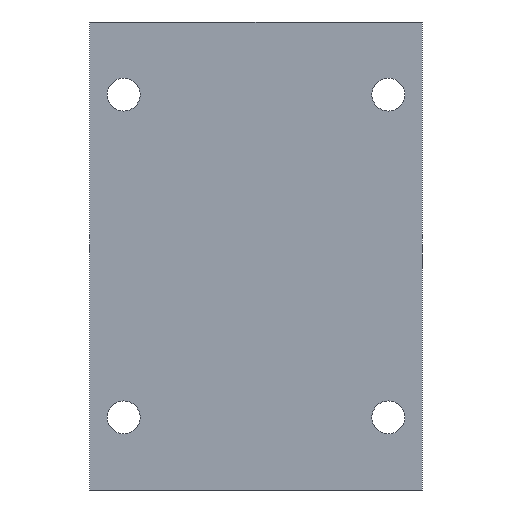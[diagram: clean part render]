
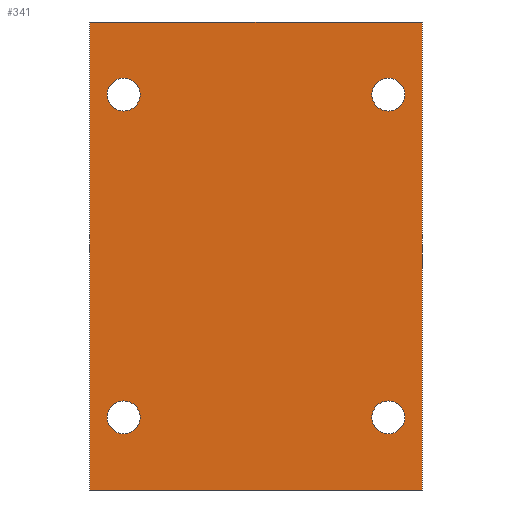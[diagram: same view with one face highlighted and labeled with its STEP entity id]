
A CAD part, front view. The second image highlights one B-rep face of the part: STEP entity #341.
In plain terms, the highlighted planar face has unit normal (0, -1, 0).
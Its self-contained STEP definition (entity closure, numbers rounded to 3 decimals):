
#1 = LINE ( 'NONE', #13, #239 ) ;
#13 = CARTESIAN_POINT ( 'NONE',  ( -51.5, -46., -72.5 ) ) ;
#27 = CIRCLE ( 'NONE', #759, 5.1 ) ;
#28 = DIRECTION ( 'NONE',  ( 0., 0., -1. ) ) ;
#40 = CIRCLE ( 'NONE', #325, 5.1 ) ;
#60 = ORIENTED_EDGE ( 'NONE', *, *, #868, .F. ) ;
#64 = ORIENTED_EDGE ( 'NONE', *, *, #143, .F. ) ;
#72 = VECTOR ( 'NONE', #28, 1000. ) ;
#98 = EDGE_LOOP ( 'NONE', ( #1142, #711 ) ) ;
#121 = CARTESIAN_POINT ( 'NONE',  ( 41., -46., 55.1 ) ) ;
#141 = EDGE_LOOP ( 'NONE', ( #549, #1027 ) ) ;
#142 = VERTEX_POINT ( 'NONE', #1218 ) ;
#143 = EDGE_CURVE ( 'NONE', #300, #1088, #306, .T. ) ;
#152 = CARTESIAN_POINT ( 'NONE',  ( -41., -46., 44.9 ) ) ;
#160 = VERTEX_POINT ( 'NONE', #121 ) ;
#173 = CARTESIAN_POINT ( 'NONE',  ( 41., -46., 50. ) ) ;
#180 = FACE_BOUND ( 'NONE', #732, .T. ) ;
#196 = DIRECTION ( 'NONE',  ( 0., 0., -1. ) ) ;
#200 = VECTOR ( 'NONE', #292, 1000. ) ;
#204 = CARTESIAN_POINT ( 'NONE',  ( -41., -46., 50. ) ) ;
#239 = VECTOR ( 'NONE', #1205, 1000. ) ;
#269 = CARTESIAN_POINT ( 'NONE',  ( 41., -46., -50. ) ) ;
#282 = FACE_BOUND ( 'NONE', #141, .T. ) ;
#289 = CARTESIAN_POINT ( 'NONE',  ( -41., -46., 55.1 ) ) ;
#292 = DIRECTION ( 'NONE',  ( 1., 0., 0. ) ) ;
#300 = VERTEX_POINT ( 'NONE', #675 ) ;
#301 = EDGE_LOOP ( 'NONE', ( #609, #60 ) ) ;
#306 = LINE ( 'NONE', #1200, #200 ) ;
#311 = DIRECTION ( 'NONE',  ( 0., -1., 0. ) ) ;
#318 = CARTESIAN_POINT ( 'NONE',  ( 41., -46., -44.9 ) ) ;
#325 = AXIS2_PLACEMENT_3D ( 'NONE', #483, #384, #196 ) ;
#326 = ORIENTED_EDGE ( 'NONE', *, *, #785, .F. ) ;
#330 = CARTESIAN_POINT ( 'NONE',  ( 41., -46., 50. ) ) ;
#341 = ADVANCED_FACE ( 'NONE', ( #884, #282, #1279, #377, #180 ), #1275, .F. ) ;
#342 = DIRECTION ( 'NONE',  ( 0., -1., 0. ) ) ;
#354 = EDGE_CURVE ( 'NONE', #540, #1211, #27, .T. ) ;
#361 = CARTESIAN_POINT ( 'NONE',  ( 41., -46., 44.9 ) ) ;
#369 = EDGE_CURVE ( 'NONE', #426, #160, #1105, .T. ) ;
#370 = CARTESIAN_POINT ( 'NONE',  ( 51.5, -46., 72.5 ) ) ;
#377 = FACE_BOUND ( 'NONE', #98, .T. ) ;
#384 = DIRECTION ( 'NONE',  ( 0., -1., 0. ) ) ;
#415 = VERTEX_POINT ( 'NONE', #959 ) ;
#426 = VERTEX_POINT ( 'NONE', #361 ) ;
#455 = EDGE_CURVE ( 'NONE', #519, #757, #1223, .T. ) ;
#475 = CIRCLE ( 'NONE', #496, 5.1 ) ;
#483 = CARTESIAN_POINT ( 'NONE',  ( 41., -46., -50. ) ) ;
#496 = AXIS2_PLACEMENT_3D ( 'NONE', #1245, #342, #739 ) ;
#500 = DIRECTION ( 'NONE',  ( 0., -1., 0. ) ) ;
#514 = EDGE_CURVE ( 'NONE', #938, #142, #1, .T. ) ;
#519 = VERTEX_POINT ( 'NONE', #815 ) ;
#540 = VERTEX_POINT ( 'NONE', #289 ) ;
#549 = ORIENTED_EDGE ( 'NONE', *, *, #369, .F. ) ;
#559 = DIRECTION ( 'NONE',  ( 0., -1., 0. ) ) ;
#590 = AXIS2_PLACEMENT_3D ( 'NONE', #1188, #888, #1066 ) ;
#609 = ORIENTED_EDGE ( 'NONE', *, *, #455, .F. ) ;
#617 = CIRCLE ( 'NONE', #1137, 5.1 ) ;
#620 = DIRECTION ( 'NONE',  ( 0., -1., 0. ) ) ;
#638 = AXIS2_PLACEMENT_3D ( 'NONE', #204, #500, #983 ) ;
#646 = DIRECTION ( 'NONE',  ( 0., 0., -1. ) ) ;
#661 = LINE ( 'NONE', #370, #663 ) ;
#663 = VECTOR ( 'NONE', #1262, 1000. ) ;
#675 = CARTESIAN_POINT ( 'NONE',  ( -51.5, -46., 72.5 ) ) ;
#679 = ORIENTED_EDGE ( 'NONE', *, *, #1146, .T. ) ;
#711 = ORIENTED_EDGE ( 'NONE', *, *, #952, .F. ) ;
#732 = EDGE_LOOP ( 'NONE', ( #1249, #800 ) ) ;
#739 = DIRECTION ( 'NONE',  ( 0., 0., -1. ) ) ;
#741 = EDGE_LOOP ( 'NONE', ( #1150, #326, #64, #679 ) ) ;
#742 = EDGE_CURVE ( 'NONE', #1082, #415, #475, .T. ) ;
#757 = VERTEX_POINT ( 'NONE', #318 ) ;
#759 = AXIS2_PLACEMENT_3D ( 'NONE', #1291, #559, #1181 ) ;
#761 = AXIS2_PLACEMENT_3D ( 'NONE', #173, #1286, #778 ) ;
#762 = CARTESIAN_POINT ( 'NONE',  ( -51.5, -46., -72.5 ) ) ;
#778 = DIRECTION ( 'NONE',  ( 0., 0., -1. ) ) ;
#785 = EDGE_CURVE ( 'NONE', #1088, #142, #661, .T. ) ;
#800 = ORIENTED_EDGE ( 'NONE', *, *, #354, .F. ) ;
#815 = CARTESIAN_POINT ( 'NONE',  ( 41., -46., -55.1 ) ) ;
#827 = AXIS2_PLACEMENT_3D ( 'NONE', #1180, #877, #646 ) ;
#856 = CIRCLE ( 'NONE', #827, 5.1 ) ;
#868 = EDGE_CURVE ( 'NONE', #757, #519, #40, .T. ) ;
#877 = DIRECTION ( 'NONE',  ( 0., -1., 0. ) ) ;
#884 = FACE_BOUND ( 'NONE', #301, .T. ) ;
#888 = DIRECTION ( 'NONE',  ( 0., 1., 0. ) ) ;
#912 = DIRECTION ( 'NONE',  ( 0., 0., -1. ) ) ;
#938 = VERTEX_POINT ( 'NONE', #762 ) ;
#943 = CARTESIAN_POINT ( 'NONE',  ( -41., -46., -55.1 ) ) ;
#952 = EDGE_CURVE ( 'NONE', #415, #1082, #856, .T. ) ;
#959 = CARTESIAN_POINT ( 'NONE',  ( -41., -46., -44.9 ) ) ;
#983 = DIRECTION ( 'NONE',  ( 0., 0., -1. ) ) ;
#1023 = CARTESIAN_POINT ( 'NONE',  ( 51.5, -46., 72.5 ) ) ;
#1027 = ORIENTED_EDGE ( 'NONE', *, *, #1244, .F. ) ;
#1028 = DIRECTION ( 'NONE',  ( 0., 0., -1. ) ) ;
#1043 = EDGE_CURVE ( 'NONE', #1211, #540, #1231, .T. ) ;
#1066 = DIRECTION ( 'NONE',  ( 0., 0., 1. ) ) ;
#1082 = VERTEX_POINT ( 'NONE', #943 ) ;
#1088 = VERTEX_POINT ( 'NONE', #1023 ) ;
#1105 = CIRCLE ( 'NONE', #761, 5.1 ) ;
#1124 = CARTESIAN_POINT ( 'NONE',  ( -51.5, -46., 72.5 ) ) ;
#1137 = AXIS2_PLACEMENT_3D ( 'NONE', #330, #620, #1028 ) ;
#1142 = ORIENTED_EDGE ( 'NONE', *, *, #742, .F. ) ;
#1146 = EDGE_CURVE ( 'NONE', #300, #938, #1153, .T. ) ;
#1150 = ORIENTED_EDGE ( 'NONE', *, *, #514, .T. ) ;
#1153 = LINE ( 'NONE', #1124, #72 ) ;
#1180 = CARTESIAN_POINT ( 'NONE',  ( -41., -46., -50. ) ) ;
#1181 = DIRECTION ( 'NONE',  ( 0., 0., -1. ) ) ;
#1188 = CARTESIAN_POINT ( 'NONE',  ( -51.5, -46., 72.5 ) ) ;
#1200 = CARTESIAN_POINT ( 'NONE',  ( -51.5, -46., 72.5 ) ) ;
#1205 = DIRECTION ( 'NONE',  ( 1., 0., 0. ) ) ;
#1211 = VERTEX_POINT ( 'NONE', #152 ) ;
#1218 = CARTESIAN_POINT ( 'NONE',  ( 51.5, -46., -72.5 ) ) ;
#1223 = CIRCLE ( 'NONE', #1270, 5.1 ) ;
#1231 = CIRCLE ( 'NONE', #638, 5.1 ) ;
#1244 = EDGE_CURVE ( 'NONE', #160, #426, #617, .T. ) ;
#1245 = CARTESIAN_POINT ( 'NONE',  ( -41., -46., -50. ) ) ;
#1249 = ORIENTED_EDGE ( 'NONE', *, *, #1043, .F. ) ;
#1262 = DIRECTION ( 'NONE',  ( 0., 0., -1. ) ) ;
#1270 = AXIS2_PLACEMENT_3D ( 'NONE', #269, #311, #912 ) ;
#1275 = PLANE ( 'NONE',  #590 ) ;
#1279 = FACE_OUTER_BOUND ( 'NONE', #741, .T. ) ;
#1286 = DIRECTION ( 'NONE',  ( 0., -1., 0. ) ) ;
#1291 = CARTESIAN_POINT ( 'NONE',  ( -41., -46., 50. ) ) ;
